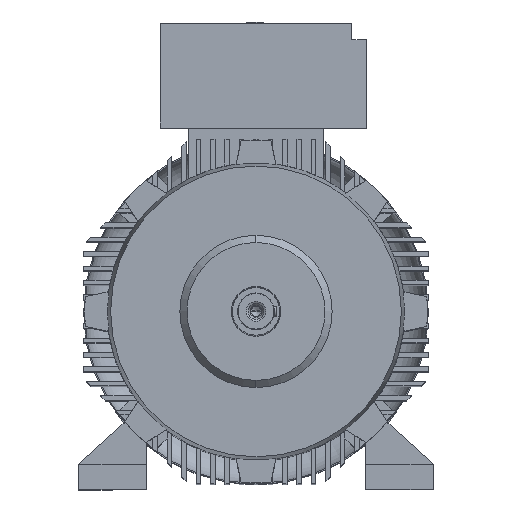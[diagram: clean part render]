
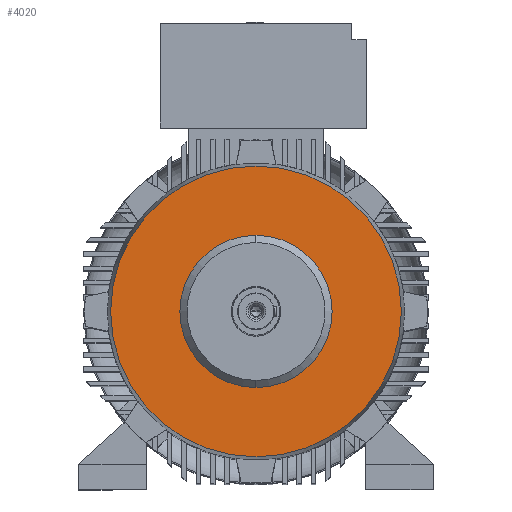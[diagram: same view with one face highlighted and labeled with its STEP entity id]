
A CAD part, top view. The second image highlights one B-rep face of the part: STEP entity #4020.
In plain terms, the highlighted planar face has unit normal (0, 0, 1).
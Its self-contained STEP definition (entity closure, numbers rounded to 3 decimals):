
#1372 = DIRECTION ( 'NONE',  ( 0., -1., 0. ) ) ;
#1987 = VERTEX_POINT ( 'NONE', #19019 ) ;
#2202 = FACE_OUTER_BOUND ( 'NONE', #14065, .T. ) ;
#3632 = DIRECTION ( 'NONE',  ( 0., 0., -1. ) ) ;
#3803 = FACE_BOUND ( 'NONE', #11365, .T. ) ;
#3820 = EDGE_CURVE ( 'NONE', #16849, #18775, #4116, .T. ) ;
#4020 = ADVANCED_FACE ( 'NONE', ( #3803, #2202 ), #18731, .F. ) ;
#4116 = CIRCLE ( 'NONE', #6661, 257.574 ) ;
#4975 = ORIENTED_EDGE ( 'NONE', *, *, #22914, .T. ) ;
#5045 = CIRCLE ( 'NONE', #18986, 134.8 ) ;
#5194 = CARTESIAN_POINT ( 'NONE',  ( 0., 0., 455.4 ) ) ;
#5453 = AXIS2_PLACEMENT_3D ( 'NONE', #25568, #17551, #1372 ) ;
#6513 = CARTESIAN_POINT ( 'NONE',  ( 0., 257.574, 455.4 ) ) ;
#6661 = AXIS2_PLACEMENT_3D ( 'NONE', #10735, #23192, #16958 ) ;
#7143 = DIRECTION ( 'NONE',  ( 0., -1., 0. ) ) ;
#8379 = DIRECTION ( 'NONE',  ( 1., 0., 0. ) ) ;
#8587 = ORIENTED_EDGE ( 'NONE', *, *, #3820, .T. ) ;
#10735 = CARTESIAN_POINT ( 'NONE',  ( 0., 0., 455.4 ) ) ;
#11365 = EDGE_LOOP ( 'NONE', ( #17615, #13409 ) ) ;
#11452 = AXIS2_PLACEMENT_3D ( 'NONE', #6513, #20601, #8379 ) ;
#11472 = CARTESIAN_POINT ( 'NONE',  ( 257.574, 0., 455.4 ) ) ;
#12124 = AXIS2_PLACEMENT_3D ( 'NONE', #5194, #21406, #7143 ) ;
#13409 = ORIENTED_EDGE ( 'NONE', *, *, #17746, .T. ) ;
#14065 = EDGE_LOOP ( 'NONE', ( #8587, #4975 ) ) ;
#15770 = CARTESIAN_POINT ( 'NONE',  ( 0., 0., 455.4 ) ) ;
#16849 = VERTEX_POINT ( 'NONE', #11472 ) ;
#16958 = DIRECTION ( 'NONE',  ( 0., -1., 0. ) ) ;
#17252 = CARTESIAN_POINT ( 'NONE',  ( 0., 134.8, 455.4 ) ) ;
#17551 = DIRECTION ( 'NONE',  ( 0., 0., -1. ) ) ;
#17615 = ORIENTED_EDGE ( 'NONE', *, *, #19169, .T. ) ;
#17746 = EDGE_CURVE ( 'NONE', #20377, #1987, #5045, .T. ) ;
#17826 = DIRECTION ( 'NONE',  ( 0., -1., 0. ) ) ;
#18594 = CIRCLE ( 'NONE', #5453, 134.8 ) ;
#18731 = PLANE ( 'NONE',  #11452 ) ;
#18775 = VERTEX_POINT ( 'NONE', #25702 ) ;
#18986 = AXIS2_PLACEMENT_3D ( 'NONE', #15770, #3632, #17826 ) ;
#19019 = CARTESIAN_POINT ( 'NONE',  ( 0., -134.8, 455.4 ) ) ;
#19169 = EDGE_CURVE ( 'NONE', #1987, #20377, #18594, .T. ) ;
#20377 = VERTEX_POINT ( 'NONE', #17252 ) ;
#20601 = DIRECTION ( 'NONE',  ( 0., 0., -1. ) ) ;
#21406 = DIRECTION ( 'NONE',  ( 0., 0., 1. ) ) ;
#22914 = EDGE_CURVE ( 'NONE', #18775, #16849, #24255, .T. ) ;
#23192 = DIRECTION ( 'NONE',  ( 0., 0., 1. ) ) ;
#24255 = CIRCLE ( 'NONE', #12124, 257.574 ) ;
#25568 = CARTESIAN_POINT ( 'NONE',  ( 0., 0., 455.4 ) ) ;
#25702 = CARTESIAN_POINT ( 'NONE',  ( -257.574, 0., 455.4 ) ) ;
